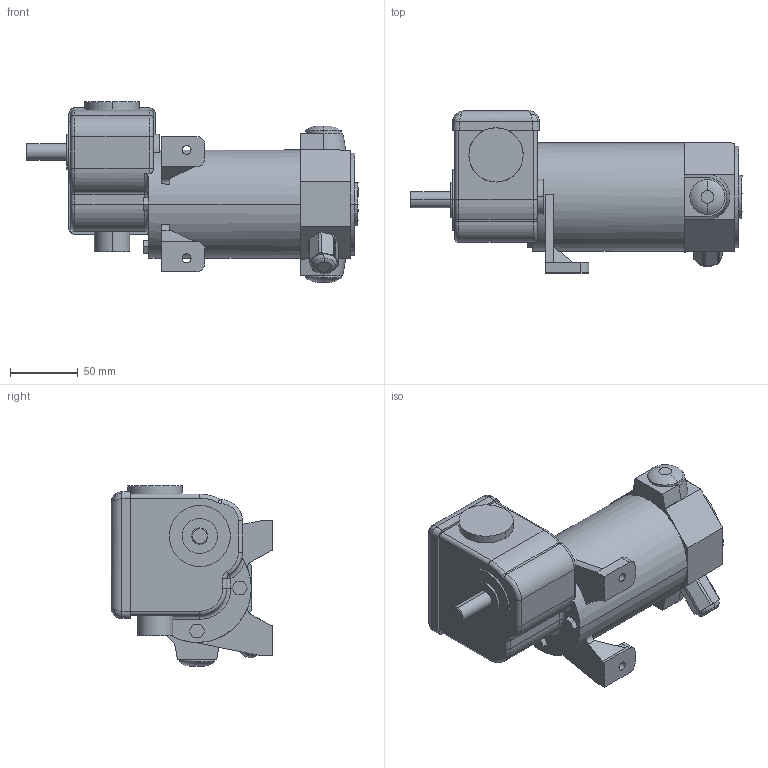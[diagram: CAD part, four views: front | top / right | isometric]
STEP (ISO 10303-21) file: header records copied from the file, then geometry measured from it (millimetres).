
FILE_DESCRIPTION(('OneSpaceDesigner STEP Export'),'2;1');
FILE_NAME('EPG12_G23.stp','2008-07-16T13:11:49',(''),(''),'OneSpace Designer STEP processor (Jan. 2003) for AP214(CD)(Solid Model)','OneSpace Designer 12.01D 09-Jul-2004 (C) CoCreate Software GmbH','');
FILE_SCHEMA(('AUTOMOTIVE_DESIGN_CC2 {1 2 10303 214 -1 1 5 1}'));
Length unit declared in the file: millimetre
Products named in the file (2): EPG12_G23
Assembly tree (1 placements, depth 2):
  EPG12_G23
    EPG12_G23
Bounding box: 245 x 119.5 x 133 mm (x, y, z)
Volume: 1337574.3 mm3; surface area: 94807.1 mm2
Topology: 1 solids, 1 shells, 183 faces, 458 edges, 291 vertices
Faces by surface type: plane 83, cylinder 61, torus 20, bspline 16, cone 2, sphere 1
Entity records: 9122 total; most frequent: CARTESIAN_POINT 4972, ORIENTED_EDGE 914, DIRECTION 766, EDGE_CURVE 457, VERTEX_POINT 291, AXIS2_PLACEMENT_3D 264, VECTOR 238, LINE 238
